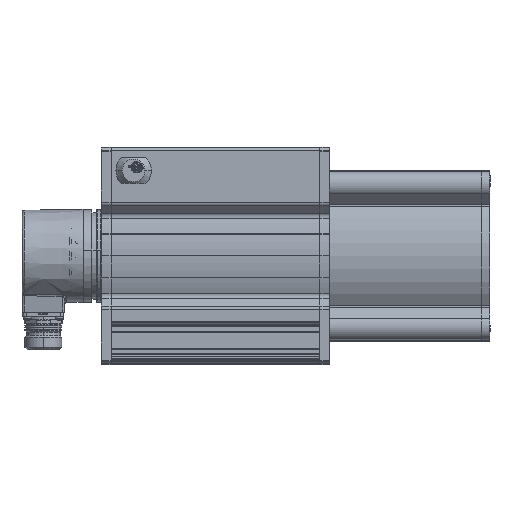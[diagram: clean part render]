
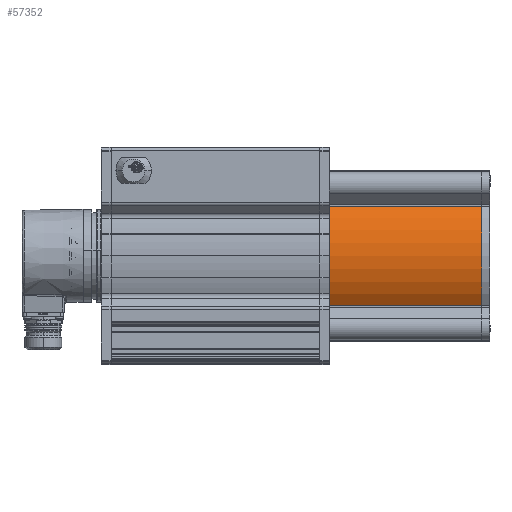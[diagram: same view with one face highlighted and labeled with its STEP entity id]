
A CAD part, top view. The second image highlights one B-rep face of the part: STEP entity #57352.
In plain terms, the highlighted cylindrical face has radius 53.25 mm (diameter 106.5 mm), a partial arc.
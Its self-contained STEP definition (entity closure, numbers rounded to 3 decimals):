
#50520 = DIRECTION ( 'NONE',  ( -1., 0., 0. ) ) ;
#50521 = VECTOR ( 'NONE', #50520, 1000. ) ;
#50522 = CARTESIAN_POINT ( 'NONE',  ( -98.586, 91.749, 17.983 ) ) ;
#50523 = LINE ( 'NONE', #50522, #50521 ) ;
#50525 = CARTESIAN_POINT ( 'NONE',  ( -22.706, 91.749, 17.983 ) ) ;
#50536 = CARTESIAN_POINT ( 'NONE',  ( 72.294, 91.749, 17.983 ) ) ;
#50765 = CARTESIAN_POINT ( 'NONE',  ( -22.706, 29.979, 17.983 ) ) ;
#50766 = DIRECTION ( 'NONE',  ( 1., 0., 0. ) ) ;
#50767 = VECTOR ( 'NONE', #50766, 1000. ) ;
#50768 = CARTESIAN_POINT ( 'NONE',  ( -98.586, 29.979, 17.983 ) ) ;
#50769 = LINE ( 'NONE', #50768, #50767 ) ;
#50771 = CARTESIAN_POINT ( 'NONE',  ( 72.294, 29.979, 17.983 ) ) ;
#51147 = CIRCLE ( 'NONE', #51179, 53.25 ) ;
#51149 = FACE_OUTER_BOUND ( 'NONE', #57353, .T. ) ;
#51176 = DIRECTION ( 'NONE',  ( 0., -1., 0. ) ) ;
#51177 = DIRECTION ( 'NONE',  ( 1., 0., 0. ) ) ;
#51178 = CARTESIAN_POINT ( 'NONE',  ( 72.294, 60.864, -25.395 ) ) ;
#51179 = AXIS2_PLACEMENT_3D ( 'NONE', #51178, #51177, #51176 ) ;
#51181 = DIRECTION ( 'NONE',  ( 0., 1., 0. ) ) ;
#51182 = DIRECTION ( 'NONE',  ( 1., 0., 0. ) ) ;
#51183 = CARTESIAN_POINT ( 'NONE',  ( -22.706, 60.864, -25.395 ) ) ;
#51184 = AXIS2_PLACEMENT_3D ( 'NONE', #51183, #51182, #51181 ) ;
#51186 = DIRECTION ( 'NONE',  ( 0., -1., 0. ) ) ;
#51187 = DIRECTION ( 'NONE',  ( -1., 0., 0. ) ) ;
#51188 = CARTESIAN_POINT ( 'NONE',  ( -98.586, 60.864, -25.395 ) ) ;
#51189 = AXIS2_PLACEMENT_3D ( 'NONE', #51188, #51187, #51186 ) ;
#51190 = CIRCLE ( 'NONE', #51184, 53.25 ) ;
#51191 = CYLINDRICAL_SURFACE ( 'NONE', #51189, 53.25 ) ;
#57037 = VERTEX_POINT ( 'NONE', #50536 ) ;
#57044 = VERTEX_POINT ( 'NONE', #50525 ) ;
#57047 = EDGE_CURVE ( 'NONE', #57037, #57044, #50523, .T. ) ;
#57147 = VERTEX_POINT ( 'NONE', #50771 ) ;
#57150 = EDGE_CURVE ( 'NONE', #57152, #57147, #50769, .T. ) ;
#57152 = VERTEX_POINT ( 'NONE', #50765 ) ;
#57352 = ADVANCED_FACE ( 'NONE', ( #51149 ), #51191, .T. ) ;
#57353 = EDGE_LOOP ( 'NONE', ( #57354, #57356, #57358, #57359 ) ) ;
#57354 = ORIENTED_EDGE ( 'NONE', *, *, #57047, .T. ) ;
#57356 = ORIENTED_EDGE ( 'NONE', *, *, #57357, .T. ) ;
#57357 = EDGE_CURVE ( 'NONE', #57044, #57152, #51190, .T. ) ;
#57358 = ORIENTED_EDGE ( 'NONE', *, *, #57150, .T. ) ;
#57359 = ORIENTED_EDGE ( 'NONE', *, *, #57361, .F. ) ;
#57361 = EDGE_CURVE ( 'NONE', #57037, #57147, #51147, .T. ) ;
